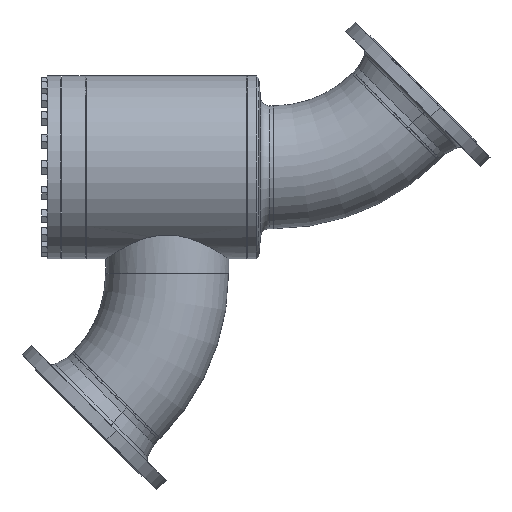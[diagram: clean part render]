
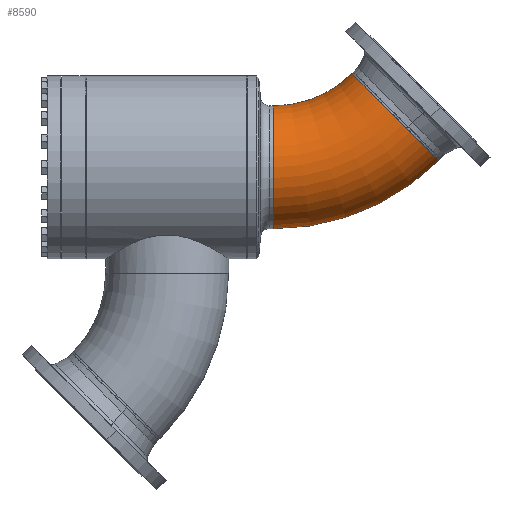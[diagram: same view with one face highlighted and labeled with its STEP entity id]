
A CAD part, left-side view. The second image highlights one B-rep face of the part: STEP entity #8590.
In plain terms, the highlighted toroidal (fillet/blend) face has major radius 381 mm and minor radius 136.5 mm.
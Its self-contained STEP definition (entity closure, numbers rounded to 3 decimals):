
#440 = EDGE_CURVE ( 'NONE', #4083, #5190, #9247, .T. ) ;
#817 = ORIENTED_EDGE ( 'NONE', *, *, #440, .T. ) ;
#878 = CARTESIAN_POINT ( 'NONE',  ( 0., -136.5, 0. ) ) ;
#1332 = ORIENTED_EDGE ( 'NONE', *, *, #3192, .T. ) ;
#1857 = EDGE_CURVE ( 'NONE', #6292, #6510, #10887, .T. ) ;
#2056 = CARTESIAN_POINT ( 'NONE',  ( 0., 136.5, 0. ) ) ;
#2324 = CIRCLE ( 'NONE', #2330, 517.5 ) ;
#2330 = AXIS2_PLACEMENT_3D ( 'NONE', #2331, #2332, #2333 ) ;
#2331 = CARTESIAN_POINT ( 'NONE',  ( 0., -381., 0. ) ) ;
#2332 = DIRECTION ( 'NONE',  ( 0., 0., 1. ) ) ;
#2333 = DIRECTION ( 'NONE',  ( 1., 0., 0. ) ) ;
#3176 = CARTESIAN_POINT ( 'NONE',  ( 172.888, -208.112, 0. ) ) ;
#3192 = EDGE_CURVE ( 'NONE', #6292, #4083, #12031, .T. ) ;
#3553 = CARTESIAN_POINT ( 'NONE',  ( 365.928, -15.072, 0. ) ) ;
#4083 = VERTEX_POINT ( 'NONE', #878 ) ;
#5190 = VERTEX_POINT ( 'NONE', #2056 ) ;
#5402 = EDGE_CURVE ( 'NONE', #6510, #5190, #2324, .T. ) ;
#6292 = VERTEX_POINT ( 'NONE', #3176 ) ;
#6510 = VERTEX_POINT ( 'NONE', #3553 ) ;
#8414 = ORIENTED_EDGE ( 'NONE', *, *, #1857, .F. ) ;
#8487 = ORIENTED_EDGE ( 'NONE', *, *, #5402, .F. ) ;
#8558 = EDGE_LOOP ( 'NONE', ( #8487, #8414, #1332, #817 ) ) ;
#8590 = ADVANCED_FACE ( 'NONE', ( #12527 ), #12528, .T. ) ;
#9247 = CIRCLE ( 'NONE', #9248, 136.5 ) ;
#9248 = AXIS2_PLACEMENT_3D ( 'NONE', #9249, #9250, #9251 ) ;
#9249 = CARTESIAN_POINT ( 'NONE',  ( 0., 0., 0. ) ) ;
#9250 = DIRECTION ( 'NONE',  ( 1., 0., 0. ) ) ;
#9251 = DIRECTION ( 'NONE',  ( 0., 0., -1. ) ) ;
#10887 = CIRCLE ( 'NONE', #10888, 136.5 ) ;
#10888 = AXIS2_PLACEMENT_3D ( 'NONE', #10889, #10894, #10895 ) ;
#10889 = CARTESIAN_POINT ( 'NONE',  ( 269.408, -111.592, 0. ) ) ;
#10894 = DIRECTION ( 'NONE',  ( 0.707, -0.707, 0. ) ) ;
#10895 = DIRECTION ( 'NONE',  ( 0., 0., -1. ) ) ;
#12031 = CIRCLE ( 'NONE', #12032, 244.5 ) ;
#12032 = AXIS2_PLACEMENT_3D ( 'NONE', #12033, #12034, #12035 ) ;
#12033 = CARTESIAN_POINT ( 'NONE',  ( 0., -381., 0. ) ) ;
#12034 = DIRECTION ( 'NONE',  ( 0., 0., 1. ) ) ;
#12035 = DIRECTION ( 'NONE',  ( 1., 0., 0. ) ) ;
#12527 = FACE_OUTER_BOUND ( 'NONE', #8558, .T. ) ;
#12528 = TOROIDAL_SURFACE ( 'NONE', #12529, 381., 136.5 ) ;
#12529 = AXIS2_PLACEMENT_3D ( 'NONE', #12530, #12531, #12532 ) ;
#12530 = CARTESIAN_POINT ( 'NONE',  ( 0., -381., 0. ) ) ;
#12531 = DIRECTION ( 'NONE',  ( 0., 0., 1. ) ) ;
#12532 = DIRECTION ( 'NONE',  ( 1., 0., 0. ) ) ;
